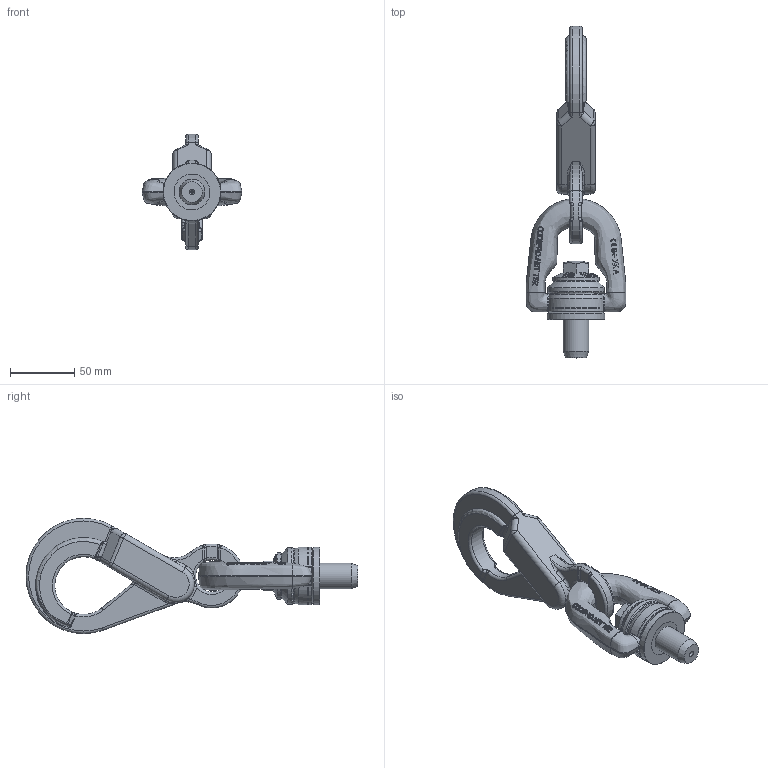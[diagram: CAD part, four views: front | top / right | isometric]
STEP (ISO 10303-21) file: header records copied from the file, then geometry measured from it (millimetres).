
FILE_DESCRIPTION(/* description */ (''),/* implementation_level */ '2;1');
FILE_NAME(/* name */ 'W:\CODIPRO\DOCUMENTS\Plans A NE PAS DIFFUSER !!!\Inventor\Standard Inventor\Produit Fini Inventor\DSH\Fichiers 3D\DSH M20.stp',/* time_stamp */ '2017-10-06T09:10:33+02:00',/* author */ ('rklenes'),/* organization */ (''),/* preprocessor_version */ 'ST-DEVELOPER v16.5',/* originating_system */ 'Autodesk Inventor 2017',/* authorisation */ '');
FILE_SCHEMA (('AUTOMOTIVE_DESIGN { 1 0 10303 214 3 1 1 }'));
Length unit declared in the file: millimetre
Products named in the file (6): DSH M20; DRB_B2B; TSM_AO2C; DHH_S2; DRA_M20X60; DRE_D2M20A
Assembly tree (5 placements, depth 2):
  DSH M20
    DRB_B2B
    TSM_AO2C
    DHH_S2
    DRA_M20X60
    DRE_D2M20A
Bounding box: 77.89 x 259.25 x 90 mm (x, y, z)
Volume: 242803.4 mm3; surface area: 59134.1 mm2
Topology: 5 solids, 5 shells, 734 faces, 1880 edges, 1170 vertices
Faces by surface type: plane 280, bspline 279, cylinder 79, torus 47, cone 32, sphere 17
Full cylindrical faces by diameter (mm): 2 x1, 14 x2, 19.85 x2, 19.854 x1, 20 x1, 22.6 x2, 23 x2, 25 x1, 32 x1, 36 x1, 44 x1, 45 x1
Entity records: 34704 total; most frequent: CARTESIAN_POINT 19057, ORIENTED_EDGE 3636, DIRECTION 2450, EDGE_CURVE 1818, VERTEX_POINT 1166, AXIS2_PLACEMENT_3D 925, EDGE_LOOP 814, FACE_OUTER_BOUND 734
